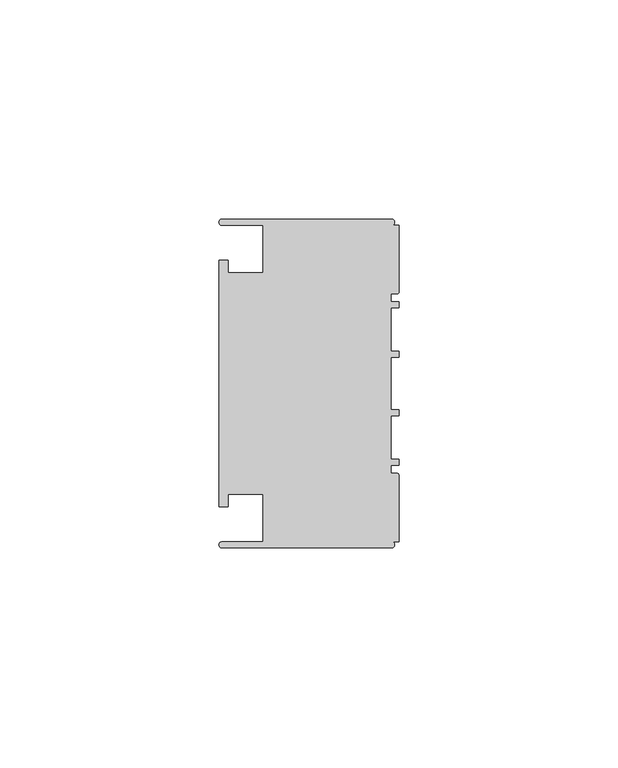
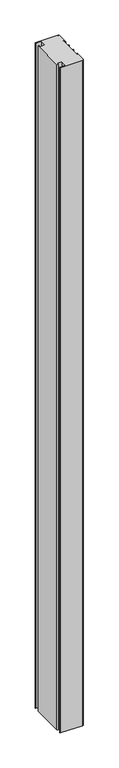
"""IFC4 building model written with IfcOpenShell, lengths in millimetres: member geometry, Прямоугольный импост : 3-AMG-2-Профиль 40Х75 Верх П."""

import ifcopenshell
import ifcopenshell.guid

model = None  # the IFC model being written
_history = None  # IfcOwnerHistory: only IFC2X3 demands one
_inside = {}  # id of a spatial element -> (the spatial element, [elements in it])
_under = {}  # id of a project, library or spatial element -> (it, [spatial elements below it])
_declared = {}  # id of a project -> (the project, [libraries it declares])
_typed = {}  # id of a type object -> (the type object, [elements of that type])
_made_of = {}  # id of a material, layer set ... -> (it, [elements and type objects made of it])


def new_model(schema):
    """Start an empty IFC model of exactly this schema.

    Asked for "IFC4X3", IfcOpenShell would pick the latest addendum, in which some entities
    have other attributes; the version numbers below select the first issue.
    IFC2X3 requires an IfcOwnerHistory on every rooted entity: one is made here for all.
    """
    global model, _history
    if schema == "IFC4X3":
        model = ifcopenshell.file(schema_version=(4, 3, 0, 0))
    else:
        model = ifcopenshell.file(schema=schema)
    _inside.clear()
    _under.clear()
    _declared.clear()
    _typed.clear()
    _made_of.clear()
    _history = None
    if model.schema == "IFC2X3":
        org = make("IfcOrganization", Name="unknown")
        user = make(
            "IfcPersonAndOrganization",
            ThePerson=make("IfcPerson", FamilyName="unknown"),
            TheOrganization=org,
        )
        app = make(
            "IfcApplication",
            ApplicationDeveloper=org,
            Version="unknown",
            ApplicationFullName="unknown",
            ApplicationIdentifier="unknown",
        )
        _history = make(
            "IfcOwnerHistory",
            OwningUser=user,
            OwningApplication=app,
            ChangeAction="ADDED",
            CreationDate=0,
        )
    return model


def make(cls, **values):
    """One entity of the class cls with the attributes given. An attribute that is None is left unset."""
    return model.create_entity(
        cls, **{name: value for name, value in values.items() if value is not None}
    )


def rooted(cls, **values):
    """An entity with a GlobalId (a new one), such as an element, a storey or a relation."""
    return make(cls, GlobalId=ifcopenshell.guid.new(), OwnerHistory=_history, **values)


def si_unit(unit_type, name, prefix=None):
    """IfcSIUnit, for example si_unit("LENGTHUNIT", "METRE", prefix="MILLI")."""
    return make("IfcSIUnit", UnitType=unit_type, Prefix=prefix, Name=name)


def assignment(units):
    """IfcUnitAssignment: the units of a project."""
    return None if units is None else make("IfcUnitAssignment", Units=units)


def point(xyz):
    """IfcCartesianPoint."""
    return None if xyz is None else make("IfcCartesianPoint", Coordinates=xyz)


def direction(xyz):
    """IfcDirection."""
    return None if xyz is None else make("IfcDirection", DirectionRatios=xyz)


def frame(location, z_axis=None, x_axis=None):
    """IfcAxis2Placement3D, a coordinate frame: its origin and axes. An axis left out is left unset."""
    return make(
        "IfcAxis2Placement3D",
        Location=point(location),
        Axis=direction(z_axis),
        RefDirection=direction(x_axis),
    )


def frame_2d(location, x_axis=None):
    """IfcAxis2Placement2D, a coordinate frame in the plane: its origin and x axis."""
    return make(
        "IfcAxis2Placement2D", Location=point(location), RefDirection=direction(x_axis)
    )


def origin():
    """The frame at (0, 0, 0) with its axes left unset."""
    return frame((0.0, 0.0, 0.0))


def place(relative_to, where):
    """IfcLocalPlacement: puts the frame where relative to a parent placement (None: the world)."""
    return make(
        "IfcLocalPlacement", PlacementRelTo=relative_to, RelativePlacement=where
    )


def context(
    kind, dimensions, precision=None, world=None, true_north=None, identifier=None
):
    """IfcGeometricRepresentationContext, for example the 3D "Model" context."""
    return make(
        "IfcGeometricRepresentationContext",
        ContextIdentifier=identifier,
        ContextType=kind,
        CoordinateSpaceDimension=dimensions,
        Precision=precision,
        WorldCoordinateSystem=world,
        TrueNorth=true_north,
    )


def project(units=None, contexts=None):
    """IfcProject with its units and contexts."""
    return rooted(
        "IfcProject",
        Name="project",
        RepresentationContexts=contexts,
        UnitsInContext=assignment(units),
    )


def spatial(cls, under=None, at=None, **own):
    """A site, building, storey or space (cls), placed at a placement, below another one or the project."""
    s = rooted(cls, ObjectPlacement=at, **own)
    if under is not None:
        _under.setdefault(under.id(), (under, []))[1].append(s)
    return s


def polyline(points):
    """IfcPolyline through the points."""
    return make("IfcPolyline", Points=[point(p) for p in points])


def circle_curve(where, radius):
    """IfcCircle in the frame where."""
    return make("IfcCircle", Position=where, Radius=radius)


def trimmed(basis, trim1, trim2, sense, master):
    """IfcTrimmedCurve: the piece of a basis curve between two trims."""
    return make(
        "IfcTrimmedCurve",
        BasisCurve=basis,
        Trim1=trim1,
        Trim2=trim2,
        SenseAgreement=sense,
        MasterRepresentation=master,
    )


def segment(curve, same_sense, transition):
    """IfcCompositeCurveSegment."""
    return make(
        "IfcCompositeCurveSegment",
        Transition=transition,
        SameSense=same_sense,
        ParentCurve=curve,
    )


def composite_curve(segments, self_intersect=None):
    """IfcCompositeCurve: segments joined end to end."""
    return make("IfcCompositeCurve", Segments=segments, SelfIntersect=self_intersect)


def outline(outer, holes=None, kind="AREA"):
    """IfcArbitraryClosedProfileDef: a profile drawn as a closed curve; with holes, ...WithVoids."""
    if holes is None:
        return make("IfcArbitraryClosedProfileDef", ProfileType=kind, OuterCurve=outer)
    return make(
        "IfcArbitraryProfileDefWithVoids",
        ProfileType=kind,
        OuterCurve=outer,
        InnerCurves=holes,
    )


def extrude(swept, where, along, depth):
    """IfcExtrudedAreaSolid: the profile swept, set in the frame where, extruded along a direction by depth."""
    return make(
        "IfcExtrudedAreaSolid",
        SweptArea=swept,
        Position=where,
        ExtrudedDirection=direction(along),
        Depth=depth,
    )


def shape(context_of_items, identifier, shape_type, items):
    """IfcShapeRepresentation: the items that make up one representation, for example the "Body"."""
    return make(
        "IfcShapeRepresentation",
        ContextOfItems=context_of_items,
        RepresentationIdentifier=identifier,
        RepresentationType=shape_type,
        Items=items,
    )


def source(mapping_origin, context_of_items, identifier, shape_type, items):
    """IfcRepresentationMap: a shape defined once, which mapped items show again and again."""
    return make(
        "IfcRepresentationMap",
        MappingOrigin=mapping_origin,
        MappedRepresentation=shape(context_of_items, identifier, shape_type, items),
    )


def transform(
    local_origin,
    x_axis=None,
    y_axis=None,
    z_axis=None,
    scale=None,
    scale2=None,
    scale3=None,
    uniform=True,
):
    """IfcCartesianTransformationOperator3D, or its non-uniform kind. x_axis, y_axis, z_axis: its Axis1, 2, 3."""
    if uniform:
        return make(
            "IfcCartesianTransformationOperator3D",
            Axis1=direction(x_axis),
            Axis2=direction(y_axis),
            LocalOrigin=point(local_origin),
            Scale=scale,
            Axis3=direction(z_axis),
        )
    return make(
        "IfcCartesianTransformationOperator3DnonUniform",
        Axis1=direction(x_axis),
        Axis2=direction(y_axis),
        LocalOrigin=point(local_origin),
        Scale=scale,
        Axis3=direction(z_axis),
        Scale2=scale2,
        Scale3=scale3,
    )


def mapped(mapping_source, mapping_target):
    """IfcMappedItem: shows the shape of a source again, moved by a transform."""
    return make(
        "IfcMappedItem", MappingSource=mapping_source, MappingTarget=mapping_target
    )


def made_of(thing, what):
    """Note that an element or type object is made of a material, layer set ...; save() writes the relation."""
    if what is not None:
        _made_of.setdefault(what.id(), (what, []))[1].append(thing)
    return thing


def element(
    cls,
    number,
    at=None,
    inside=None,
    cuts=None,
    type_object=None,
    material=None,
    context=None,
    identifier="Body",
    shape_type=None,
    held_by="IfcProductDefinitionShape",
    body=None,
    shapes=None,
    **own,
):
    """One element of the class cls, such as IfcWall. Its Tag is "e" and its number.

    at: its placement. inside: the storey or other place that contains it. cuts: it is an
    opening in that element (IfcRelVoidsElement). A single representation is given by context,
    identifier, shape_type and body (its items); several are given by shapes. held_by: the class
    of the entity that holds the representations. save() writes the other relations.
    """
    e = rooted(cls, Tag="e%d" % number, ObjectPlacement=at, **own)
    if body is not None:
        shapes = [shape(context, identifier, shape_type, body)]
    if shapes is not None:
        e.Representation = make(held_by, Representations=shapes)
    if inside is not None:
        _inside.setdefault(inside.id(), (inside, []))[1].append(e)
    if cuts is not None:
        rooted(
            "IfcRelVoidsElement", RelatingBuildingElement=cuts, RelatedOpeningElement=e
        )
    if type_object is not None:
        _typed.setdefault(type_object.id(), (type_object, []))[1].append(e)
    return made_of(e, material)


def aggregate(whole, parts):
    """IfcRelAggregates: a whole, such as a stair, and the parts it consists of."""
    return rooted("IfcRelAggregates", RelatingObject=whole, RelatedObjects=parts)


def save(model, path):
    """Write the relations noted so far, then the file.

    IfcRelAggregates (storeys below a building ...), IfcRelContainedInSpatialStructure (elements
    in a storey), IfcRelDefinesByType, IfcRelAssociatesMaterial and IfcRelDeclares: one each for
    every whole, place, type object, material and project.
    """
    for whole, parts in _under.values():
        aggregate(whole, parts)
    for where, things in _inside.values():
        rooted(
            "IfcRelContainedInSpatialStructure",
            RelatedElements=things,
            RelatingStructure=where,
        )
    for kind, things in _typed.values():
        rooted("IfcRelDefinesByType", RelatedObjects=things, RelatingType=kind)
    for what, things in _made_of.values():
        rooted("IfcRelAssociatesMaterial", RelatedObjects=things, RelatingMaterial=what)
    for by, libraries in _declared.values():
        rooted("IfcRelDeclares", RelatingContext=by, RelatedDefinitions=libraries)
    model.write(path)


def member_c068abe3(model_context):
    return source(origin(), model_context, "Body", "SweptSolid", [
        extrude(outline(composite_curve([segment(polyline([(-1.7, -37.5), (-40.4, -37.5)]), True, "CONTINUOUS"), segment(trimmed(circle_curve(frame_2d((-40.4, -36.8)), 0.7), [point((-40.4, -37.5))], [point((-40.4, -36.1))], False, "CARTESIAN"), True, "CONTINUOUS"), segment(polyline([(-40.4, -36.1), (-31.0, -36.1), (-31.0, -25.25), (-39.0, -25.25), (-39.0, -28.1), (-41.1, -28.1), (-41.1, 28.1), (-39.0, 28.1), (-39.0, 25.25), (-31.0, 25.25), (-31.0, 36.1), (-40.4, 36.1)]), True, "CONTINUOUS"), segment(trimmed(circle_curve(frame_2d((-40.4, 36.8)), 0.7), [point((-40.4, 36.1))], [point((-40.4, 37.5))], False, "CARTESIAN"), True, "CONTINUOUS"), segment(polyline([(-40.4, 37.5), (-1.7, 37.5)]), True, "CONTINUOUS"), segment(trimmed(circle_curve(frame_2d((-1.7, 36.8)), 0.7), [point((-1.7, 37.5))], [point((-1.7, 36.1))], False, "CARTESIAN"), True, "CONTINUOUS"), segment(polyline([(-1.7, 36.1), (0.0, 36.1), (0.0, 20.95)]), True, "CONTINUOUS"), segment(trimmed(circle_curve(frame_2d((-0.5, 20.95)), 0.5), [point((0.0, 20.95))], [point((-0.5, 20.45))], False, "CARTESIAN"), True, "CONTINUOUS"), segment(polyline([(-0.5, 20.45), (-1.8, 20.45), (-1.8, 18.65), (0.0, 18.65), (0.0, 17.25), (-1.8, 17.25), (-1.8, 7.4), (0.0, 7.4), (0.0, 6.0), (-1.8, 6.0), (-1.8, -6.0), (0.0, -6.0), (0.0, -7.4), (-1.8, -7.4), (-1.8, -17.25), (0.0, -17.25), (0.0, -18.65), (-1.8, -18.65), (-1.8, -20.45), (-0.5, -20.45)]), True, "CONTINUOUS"), segment(trimmed(circle_curve(frame_2d((-0.5, -20.95)), 0.5), [point((-0.5, -20.45))], [point((0.0, -20.95))], False, "CARTESIAN"), True, "CONTINUOUS"), segment(polyline([(0.0, -20.95), (0.0, -36.1), (-1.7, -36.1)]), True, "CONTINUOUS"), segment(trimmed(circle_curve(frame_2d((-1.7, -36.8)), 0.7), [point((-1.7, -36.1))], [point((-1.7, -37.5))], False, "CARTESIAN"), True, "CONTINUOUS")], self_intersect=False)), frame((0.0, 0.0, -1210.0), z_axis=(0.0, 0.0, 1.0), x_axis=(1.0, 0.0, 0.0)), (0.0, 0.0, 1.0), 1210.0),
    ])


if __name__ == "__main__":
    model = new_model("IFC4")
    model_context = context("Model", 3, world=origin())
    ifc_project = project(units=[si_unit("LENGTHUNIT", "METRE", prefix="MILLI")], contexts=[model_context])
    site = spatial("IfcSite", under=ifc_project)
    building = spatial("IfcBuilding", under=site)
    placement = place(None, origin())
    member_shape = member_c068abe3(model_context)
    element("IfcMember", 1, ObjectType="Прямоугольный импост : 3-AMG-2-Профиль 40Х75 Верх П", at=placement, inside=building, context=model_context, shape_type="MappedRepresentation", body=[
        mapped(member_shape, transform((0.0, 0.0, 0.0), x_axis=(1.0, 0.0, 0.0), y_axis=(0.0, 1.0, 0.0), z_axis=(0.0, 0.0, 1.0))),
    ])
    save(model, "model.ifc")
